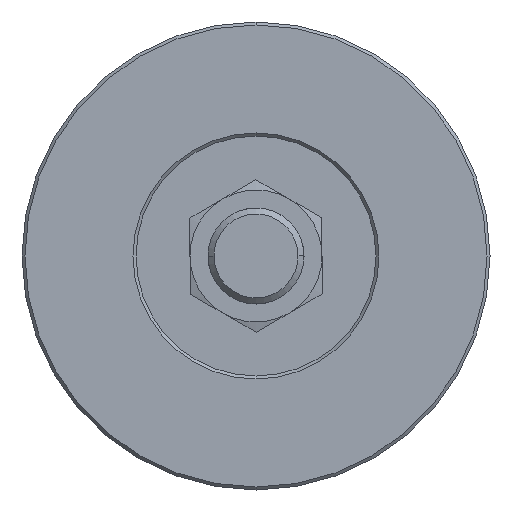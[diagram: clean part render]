
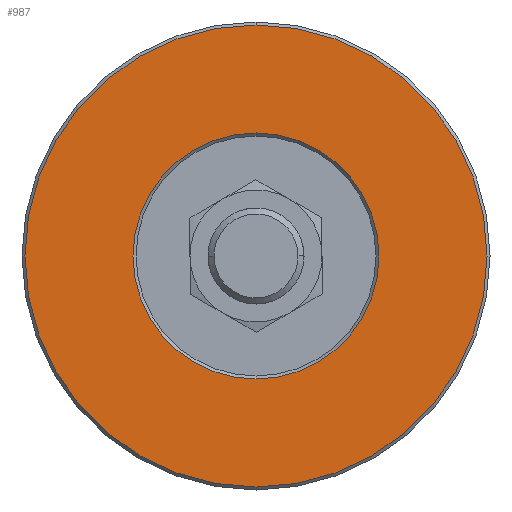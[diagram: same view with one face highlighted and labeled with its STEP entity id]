
A CAD part, front view. The second image highlights one B-rep face of the part: STEP entity #987.
In plain terms, the highlighted planar face has unit normal (0, -1, 0).
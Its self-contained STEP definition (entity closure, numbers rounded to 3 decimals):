
#112 = PLANE ( 'NONE',  #6905 ) ;
#243 = VERTEX_POINT ( 'NONE', #427 ) ;
#294 = DIRECTION ( 'NONE',  ( 0., 1., 0. ) ) ;
#427 = CARTESIAN_POINT ( 'NONE',  ( 0., 0., -38.5 ) ) ;
#492 = DIRECTION ( 'NONE',  ( 0., 0., -1. ) ) ;
#500 = VERTEX_POINT ( 'NONE', #1201 ) ;
#717 = CARTESIAN_POINT ( 'NONE',  ( 0., 0., 0. ) ) ;
#787 = FACE_BOUND ( 'NONE', #4202, .T. ) ;
#802 = CIRCLE ( 'NONE', #3969, 38.5 ) ;
#820 = ORIENTED_EDGE ( 'NONE', *, *, #1397, .T. ) ;
#894 = DIRECTION ( 'NONE',  ( 0., 0., -1. ) ) ;
#987 = ADVANCED_FACE ( 'NONE', ( #1724, #787 ), #112, .T. ) ;
#1201 = CARTESIAN_POINT ( 'NONE',  ( 0., 0., 20.5 ) ) ;
#1397 = EDGE_CURVE ( 'NONE', #7805, #243, #3303, .T. ) ;
#1575 = EDGE_CURVE ( 'NONE', #500, #7745, #5135, .T. ) ;
#1581 = DIRECTION ( 'NONE',  ( 0., 0., -1. ) ) ;
#1724 = FACE_OUTER_BOUND ( 'NONE', #2831, .T. ) ;
#2222 = CARTESIAN_POINT ( 'NONE',  ( 0., 0., 0. ) ) ;
#2639 = DIRECTION ( 'NONE',  ( 0., -1., 0. ) ) ;
#2666 = CARTESIAN_POINT ( 'NONE',  ( 0., 0., 0. ) ) ;
#2831 = EDGE_LOOP ( 'NONE', ( #820, #6013 ) ) ;
#3202 = ORIENTED_EDGE ( 'NONE', *, *, #6323, .T. ) ;
#3303 = CIRCLE ( 'NONE', #5227, 38.5 ) ;
#3452 = CARTESIAN_POINT ( 'NONE',  ( 0., 0., 38.5 ) ) ;
#3454 = ORIENTED_EDGE ( 'NONE', *, *, #1575, .T. ) ;
#3969 = AXIS2_PLACEMENT_3D ( 'NONE', #2666, #2639, #4594 ) ;
#4002 = DIRECTION ( 'NONE',  ( 0., 0., -1. ) ) ;
#4202 = EDGE_LOOP ( 'NONE', ( #3202, #3454 ) ) ;
#4415 = CARTESIAN_POINT ( 'NONE',  ( 0., 0., 0. ) ) ;
#4464 = DIRECTION ( 'NONE',  ( 0., -1., 0. ) ) ;
#4594 = DIRECTION ( 'NONE',  ( 0., 0., -1. ) ) ;
#4748 = CARTESIAN_POINT ( 'NONE',  ( 0., 0., -20.5 ) ) ;
#5135 = CIRCLE ( 'NONE', #6443, 20.5 ) ;
#5227 = AXIS2_PLACEMENT_3D ( 'NONE', #4415, #4464, #492 ) ;
#5394 = AXIS2_PLACEMENT_3D ( 'NONE', #717, #5946, #4002 ) ;
#5946 = DIRECTION ( 'NONE',  ( 0., 1., 0. ) ) ;
#6013 = ORIENTED_EDGE ( 'NONE', *, *, #7371, .T. ) ;
#6323 = EDGE_CURVE ( 'NONE', #7745, #500, #8071, .T. ) ;
#6443 = AXIS2_PLACEMENT_3D ( 'NONE', #2222, #294, #894 ) ;
#6693 = CARTESIAN_POINT ( 'NONE',  ( 20., 0., 0. ) ) ;
#6905 = AXIS2_PLACEMENT_3D ( 'NONE', #6693, #8002, #1581 ) ;
#7371 = EDGE_CURVE ( 'NONE', #243, #7805, #802, .T. ) ;
#7745 = VERTEX_POINT ( 'NONE', #4748 ) ;
#7805 = VERTEX_POINT ( 'NONE', #3452 ) ;
#8002 = DIRECTION ( 'NONE',  ( 0., -1., 0. ) ) ;
#8071 = CIRCLE ( 'NONE', #5394, 20.5 ) ;
